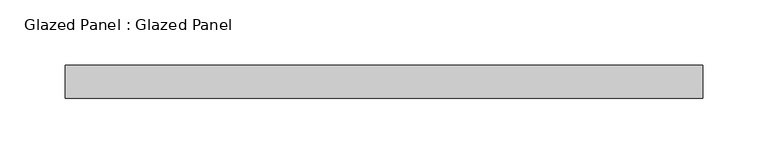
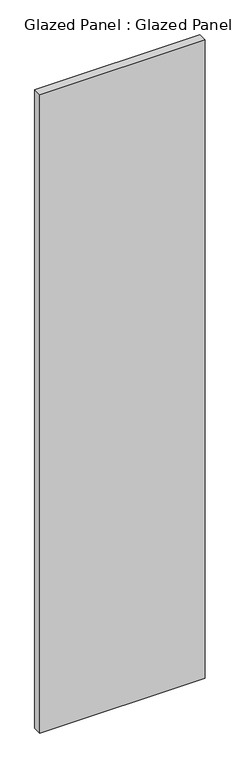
"""IFC4 building model written with IfcOpenShell, lengths in millimetres: plate geometry, Glazed Panel : Glazed Panel."""

from ifc_helpers import new_model, si_unit, origin, origin_with_axes, place, context, project, spatial, polyline, outline, extrude, source, transform, mapped, element, save


def glazed_panel_glazed_panel_da42ca35(model_context):
    return source(origin(), model_context, "Body", "SweptSolid", [
        extrude(outline(polyline([(244.4771728, 38.1), (-244.4771728, 38.1), (-244.4771728, 63.5), (244.4771728, 63.5), (244.4771728, 38.1)])), origin_with_axes(), (0.0, 0.0, 1.0), 1996.8598856),
    ])


if __name__ == "__main__":
    model = new_model("IFC4")
    model_context = context("Model", 3, world=origin())
    ifc_project = project(units=[si_unit("LENGTHUNIT", "METRE", prefix="MILLI")], contexts=[model_context])
    site = spatial("IfcSite", under=ifc_project)
    building = spatial("IfcBuilding", under=site)
    placement = place(None, origin())
    glazed_panel_glazed_panel_shape = glazed_panel_glazed_panel_da42ca35(model_context)
    element("IfcPlate", 1, ObjectType="Glazed Panel : Glazed Panel", at=placement, inside=building, context=model_context, shape_type="MappedRepresentation", body=[
        mapped(glazed_panel_glazed_panel_shape, transform((0.0, 0.0, 0.0), x_axis=(1.0, 0.0, 0.0), y_axis=(0.0, 1.0, 0.0), z_axis=(0.0, 0.0, 1.0))),
    ])
    save(model, "model.ifc")
